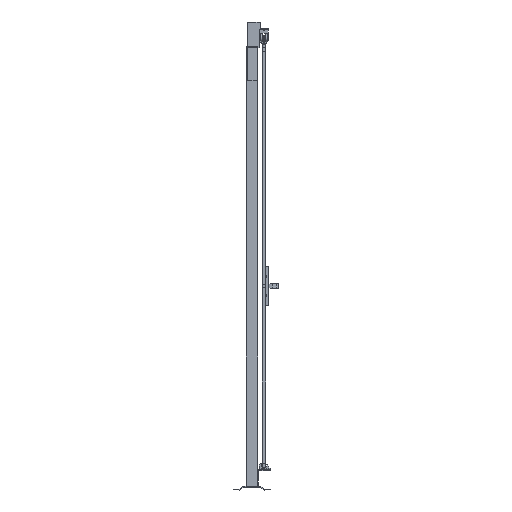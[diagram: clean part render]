
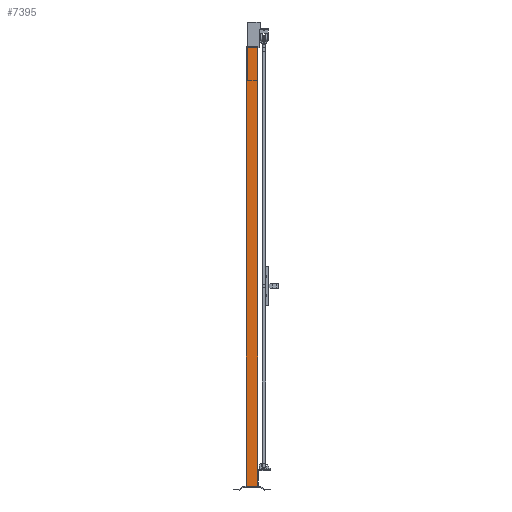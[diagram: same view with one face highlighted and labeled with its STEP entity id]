
A CAD part, left-side view. The second image highlights one B-rep face of the part: STEP entity #7395.
In plain terms, the highlighted planar face has unit normal (-1, 0, 0).
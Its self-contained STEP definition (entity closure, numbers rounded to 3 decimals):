
#625=FACE_OUTER_BOUND('',#1147,.T.);
#1147=EDGE_LOOP('',(#4386,#4387,#4388,#4389));
#1712=VERTEX_POINT('',#14762);
#1713=VERTEX_POINT('',#14764);
#1716=VERTEX_POINT('',#14771);
#1717=VERTEX_POINT('',#14773);
#2804=EDGE_CURVE('',#1712,#1713,#8361,.T.);
#2808=EDGE_CURVE('',#1716,#1717,#8365,.T.);
#2810=EDGE_CURVE('',#1713,#1716,#8367,.T.);
#2812=EDGE_CURVE('',#1712,#1717,#8369,.T.);
#4386=ORIENTED_EDGE('',*,*,#2812,.T.);
#4387=ORIENTED_EDGE('',*,*,#2808,.F.);
#4388=ORIENTED_EDGE('',*,*,#2810,.F.);
#4389=ORIENTED_EDGE('',*,*,#2804,.F.);
#6921=PLANE('',#10854);
#7395=ADVANCED_FACE('',(#625),#6921,.F.);
#8361=LINE('',#14765,#9660);
#8365=LINE('',#14774,#9664);
#8367=LINE('',#14777,#9666);
#8369=LINE('',#14780,#9668);
#9660=VECTOR('',#11818,1.);
#9664=VECTOR('',#11824,1.);
#9666=VECTOR('',#11828,1.);
#9668=VECTOR('',#11832,1.);
#10854=AXIS2_PLACEMENT_3D('',#14779,#11830,#11831);
#11818=DIRECTION('',(0.,-1.,0.));
#11824=DIRECTION('',(0.,1.,0.));
#11828=DIRECTION('',(0.,0.,-1.));
#11830=DIRECTION('center_axis',(1.,0.,0.));
#11831=DIRECTION('ref_axis',(0.,0.,-1.));
#11832=DIRECTION('',(0.,0.,-1.));
#14762=CARTESIAN_POINT('',(-30.,30.,2320.));
#14764=CARTESIAN_POINT('',(-30.,-30.,2320.));
#14765=CARTESIAN_POINT('',(-30.,0.,2320.));
#14771=CARTESIAN_POINT('',(-30.,-30.,20.));
#14773=CARTESIAN_POINT('',(-30.,30.,20.));
#14774=CARTESIAN_POINT('',(-30.,0.,20.));
#14777=CARTESIAN_POINT('',(-30.,-30.,1170.));
#14779=CARTESIAN_POINT('Origin',(-30.,0.,
1170.));
#14780=CARTESIAN_POINT('',(-30.,30.,1170.));
